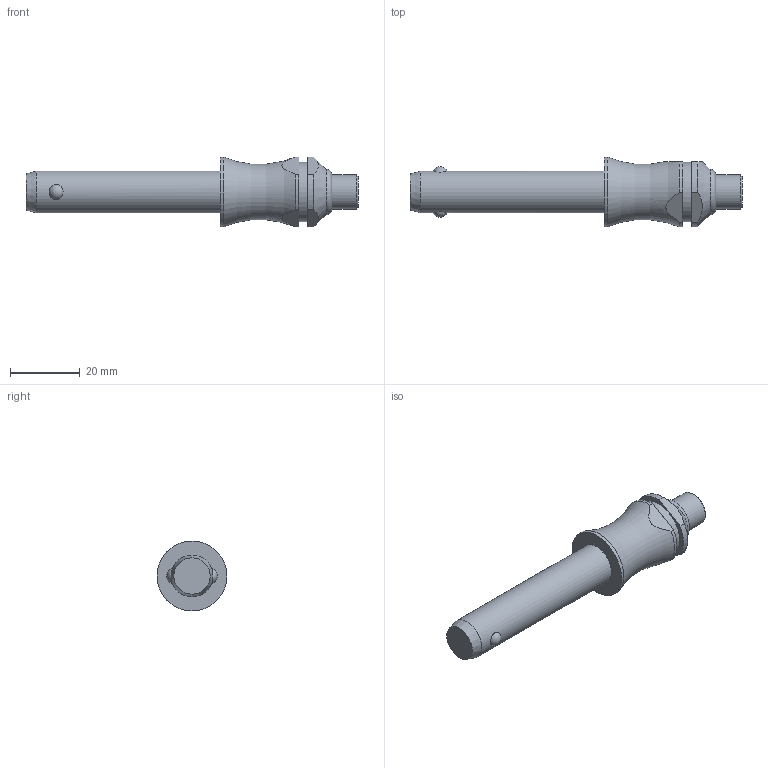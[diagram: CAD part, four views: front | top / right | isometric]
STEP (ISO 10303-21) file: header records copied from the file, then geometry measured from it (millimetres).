
FILE_DESCRIPTION( ( 'STEP AP203' ), '1' );
FILE_NAME( 'C:/Temp/Ganter_Step_05_03_2020/data/3_1/gn113_3/Stainless Steel-Ball lock pin GN 113.3-12-45 (deactivated).stp', '2020-03-12T08:18:43', ( 'License CC BY-ND 4.0' ), ( 'CADENAS' ), ' ', 'PARTsolutions', ' ' );
FILE_SCHEMA( ( 'CONFIG_CONTROL_DESIGN' ) );
Length unit declared in the file: millimetre
Products named in the file (1): _Stainless Steel-Ball lock pin GN 113.3-12-45 (deactivated)
Bounding box: 95.1 x 20 x 20 mm (x, y, z)
Volume: 14227 mm3; surface area: 4658.4 mm2
Topology: 1 solids, 1 shells, 28 faces, 60 edges, 39 vertices
Faces by surface type: plane 11, cylinder 10, cone 3, torus 2, sphere 2
Full cylindrical faces by diameter (mm): 10 x1, 12 x1, 17 x1, 20 x1
Entity records: 954 total; most frequent: CARTESIAN_POINT 338, DIRECTION 122, ORIENTED_EDGE 98, AXIS2_PLACEMENT_3D 52, EDGE_CURVE 49, EDGE_LOOP 42, VERTEX_POINT 38, FACE_OUTER_BOUND 34
